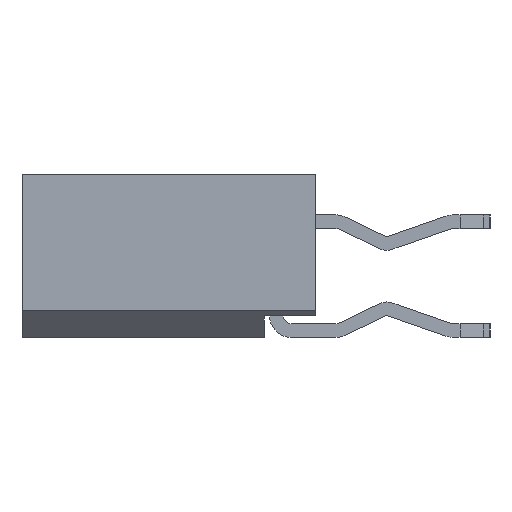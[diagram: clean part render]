
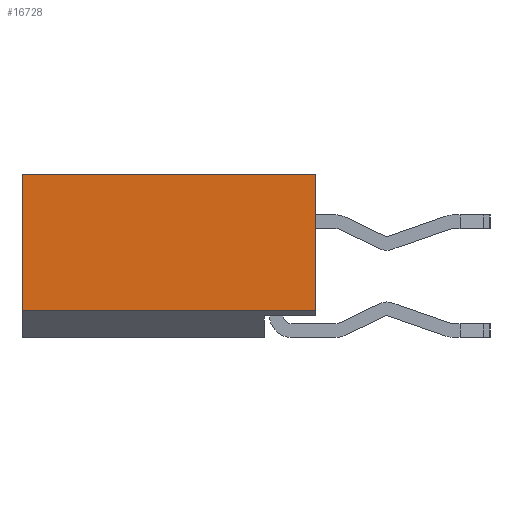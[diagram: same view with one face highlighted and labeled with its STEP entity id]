
A CAD part, left-side view. The second image highlights one B-rep face of the part: STEP entity #16728.
In plain terms, the highlighted planar face has unit normal (-1, 0, 0).
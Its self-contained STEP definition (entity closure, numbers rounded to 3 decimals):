
#1=DIRECTION('',(0.,1.,0.));
#2=VECTOR('',#1,5.4);
#3=CARTESIAN_POINT('',(0.,-5.4,0.5));
#4=LINE('',#3,#2);
#3685=DIRECTION('',(0.,1.,0.));
#3686=VECTOR('',#3685,5.4);
#3687=CARTESIAN_POINT('',(0.,-5.4,3.));
#3688=LINE('',#3687,#3686);
#3729=DIRECTION('',(0.,0.,1.));
#3730=VECTOR('',#3729,2.5);
#3731=CARTESIAN_POINT('',(0.,-5.4,0.5));
#3732=LINE('',#3731,#3730);
#3741=DIRECTION('',(0.,0.,-1.));
#3742=VECTOR('',#3741,2.5);
#3743=CARTESIAN_POINT('',(0.,0.,3.));
#3744=LINE('',#3743,#3742);
#12777=CARTESIAN_POINT('',(0.,-5.4,0.5));
#12778=CARTESIAN_POINT('',(0.,0.,0.5));
#12779=VERTEX_POINT('',#12777);
#12780=VERTEX_POINT('',#12778);
#12781=CARTESIAN_POINT('',(0.,0.,3.));
#12782=VERTEX_POINT('',#12781);
#12783=CARTESIAN_POINT('',(0.,-5.4,3.));
#12784=VERTEX_POINT('',#12783);
#16713=CARTESIAN_POINT('',(0.,0.,0.));
#16714=DIRECTION('',(1.,0.,0.));
#16715=DIRECTION('',(0.,-1.,0.));
#16716=AXIS2_PLACEMENT_3D('',#16713,#16714,#16715);
#16717=PLANE('',#16716);
#16719=ORIENTED_EDGE('',*,*,#16718,.T.);
#16721=ORIENTED_EDGE('',*,*,#16720,.F.);
#16723=ORIENTED_EDGE('',*,*,#16722,.F.);
#16725=ORIENTED_EDGE('',*,*,#16724,.F.);
#16726=EDGE_LOOP('',(#16719,#16721,#16723,#16725));
#16727=FACE_OUTER_BOUND('',#16726,.F.);
#16728=ADVANCED_FACE('',(#16727),#16717,.F.);
#16718=EDGE_CURVE('',#12779,#12780,#4,.T.);
#16720=EDGE_CURVE('',#12782,#12780,#3744,.T.);
#16722=EDGE_CURVE('',#12784,#12782,#3688,.T.);
#16724=EDGE_CURVE('',#12779,#12784,#3732,.T.);
